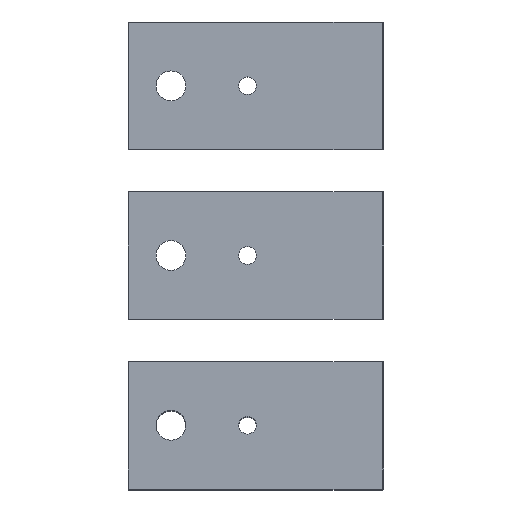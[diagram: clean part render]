
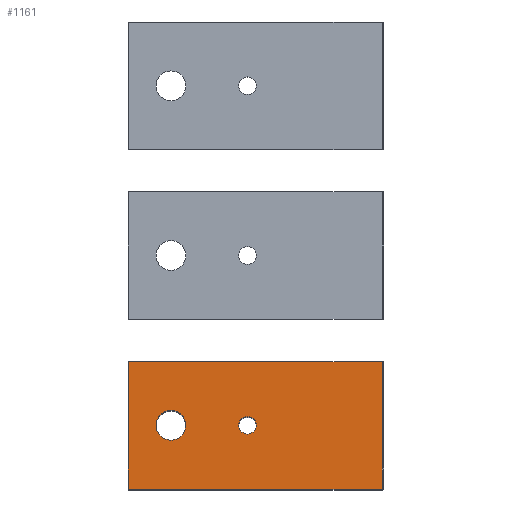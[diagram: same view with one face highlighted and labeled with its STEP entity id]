
A CAD part, top view. The second image highlights one B-rep face of the part: STEP entity #1161.
In plain terms, the highlighted planar face has unit normal (0, 0, 1).
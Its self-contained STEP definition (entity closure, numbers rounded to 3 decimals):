
#366=CARTESIAN_POINT(' ',(-35.25,0.,0.));
#367=VERTEX_POINT(' ',#366);
#381=CARTESIAN_POINT(' ',(-30.,0.,0.));
#386=DIRECTION(' ',(0.,-0.,1.));
#391=DIRECTION(' ',(-1.,0.,0.));
#396=AXIS2_PLACEMENT_3D(' ',#381,#386,#391);
#401=CIRCLE('',#396,5.25);
#406=CARTESIAN_POINT(' ',(-24.75,0.,0.));
#407=VERTEX_POINT(' ',#406);
#411=EDGE_CURVE(' ',#367,#407,#401,.T.);
#826=CARTESIAN_POINT(' ',(-30.,0.,0.));
#831=DIRECTION(' ',(0.,0.,1.));
#836=DIRECTION(' ',(1.,0.,0.));
#841=AXIS2_PLACEMENT_3D(' ',#826,#831,#836);
#846=CIRCLE('',#841,5.25);
#851=EDGE_CURVE(' ',#407,#367,#846,.T.);
#876=DIRECTION(' ',(-0.,0.,1.));
#881=CARTESIAN_POINT(' ',(-45.,-22.5,0.));
#886=DIRECTION(' ',(1.,0.,0.));
#891=AXIS2_PLACEMENT_3D(' ',#881,#876,#886);
#896=PLANE('NONE',#891);
#901=CARTESIAN_POINT(' ',(-45.,-22.5,0.));
#906=DIRECTION(' ',(1.,0.,0.));
#911=VECTOR(' ',#906,1.);
#916=LINE('',#901,#911);
#921=CARTESIAN_POINT(' ',(-45.,-22.5,0.));
#922=VERTEX_POINT(' ',#921);
#926=CARTESIAN_POINT(' ',(44.5,-22.5,0.));
#927=VERTEX_POINT(' ',#926);
#931=EDGE_CURVE(' ',#922,#927,#916,.T.);
#936=ORIENTED_EDGE(' ',*,*,#931,.T.);
#941=CARTESIAN_POINT(' ',(44.5,-22.5,0.));
#946=DIRECTION(' ',(0.,1.,0.));
#951=VECTOR(' ',#946,1.);
#956=LINE('',#941,#951);
#961=CARTESIAN_POINT(' ',(44.5,22.5,0.));
#962=VERTEX_POINT(' ',#961);
#966=EDGE_CURVE(' ',#927,#962,#956,.T.);
#971=ORIENTED_EDGE(' ',*,*,#966,.T.);
#976=CARTESIAN_POINT(' ',(44.5,22.5,0.));
#981=DIRECTION(' ',(-1.,0.,0.));
#986=VECTOR(' ',#981,1.);
#991=LINE('',#976,#986);
#996=CARTESIAN_POINT(' ',(-45.,22.5,0.));
#997=VERTEX_POINT(' ',#996);
#1001=EDGE_CURVE(' ',#962,#997,#991,.T.);
#1006=ORIENTED_EDGE(' ',*,*,#1001,.T.);
#1011=CARTESIAN_POINT(' ',(-45.,22.5,0.));
#1016=DIRECTION(' ',(0.,-1.,0.));
#1021=VECTOR(' ',#1016,1.);
#1026=LINE('',#1011,#1021);
#1031=EDGE_CURVE(' ',#997,#922,#1026,.T.);
#1036=ORIENTED_EDGE(' ',*,*,#1031,.T.);
#1041=EDGE_LOOP(' ',(#936,#971,#1006,#1036));
#1046=FACE_OUTER_BOUND(' ',#1041,.T.);
#1051=ORIENTED_EDGE(' ',*,*,#851,.F.);
#1056=ORIENTED_EDGE(' ',*,*,#411,.F.);
#1061=EDGE_LOOP(' ',(#1051,#1056));
#1066=FACE_BOUND(' ',#1061,.T.);
#1071=CARTESIAN_POINT(' ',(-3.,0.,0.));
#1076=DIRECTION(' ',(0.,0.,1.));
#1081=DIRECTION(' ',(1.,0.,0.));
#1086=AXIS2_PLACEMENT_3D(' ',#1071,#1076,#1081);
#1091=CIRCLE('',#1086,3.1);
#1096=CARTESIAN_POINT(' ',(0.1,0.,0.));
#1097=VERTEX_POINT(' ',#1096);
#1101=CARTESIAN_POINT(' ',(-6.1,0.,0.));
#1102=VERTEX_POINT(' ',#1101);
#1106=EDGE_CURVE(' ',#1097,#1102,#1091,.T.);
#1111=ORIENTED_EDGE(' ',*,*,#1106,.F.);
#1116=CARTESIAN_POINT(' ',(-3.,0.,0.));
#1121=DIRECTION(' ',(0.,-0.,1.));
#1126=DIRECTION(' ',(-1.,0.,0.));
#1131=AXIS2_PLACEMENT_3D(' ',#1116,#1121,#1126);
#1136=CIRCLE('',#1131,3.1);
#1141=EDGE_CURVE(' ',#1102,#1097,#1136,.T.);
#1146=ORIENTED_EDGE(' ',*,*,#1141,.F.);
#1151=EDGE_LOOP(' ',(#1111,#1146));
#1156=FACE_BOUND(' ',#1151,.T.);
#1161=ADVANCED_FACE('NONE',(#1046,#1066,#1156),#896,.T.);
